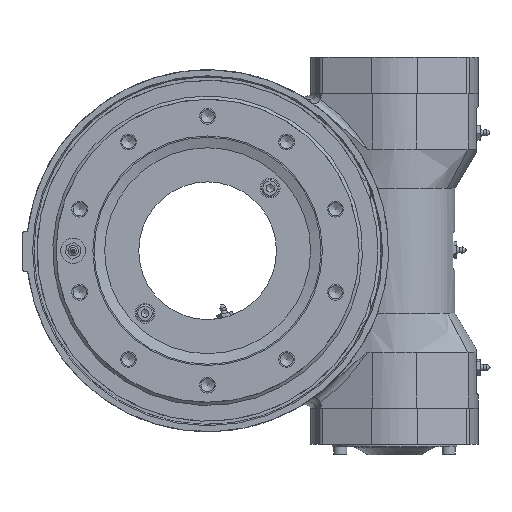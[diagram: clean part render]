
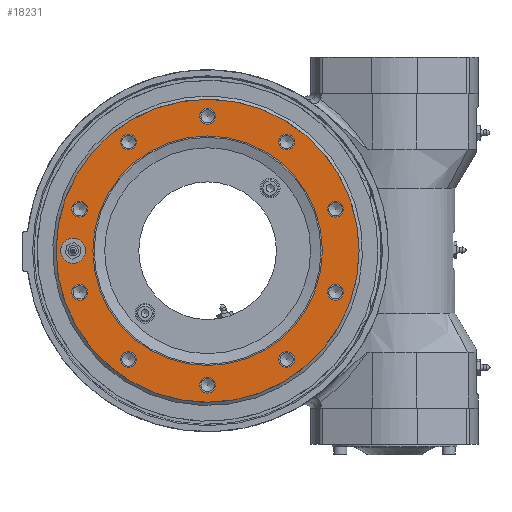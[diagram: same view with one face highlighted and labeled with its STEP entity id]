
A CAD part, left-side view. The second image highlights one B-rep face of the part: STEP entity #18231.
In plain terms, the highlighted planar face has unit normal (-1, 0, 0).
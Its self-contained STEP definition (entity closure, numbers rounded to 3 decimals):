
#50 = CIRCLE ( 'NONE', #22073, 6. ) ;
#58 = PLANE ( 'NONE',  #23993 ) ;
#165 = DIRECTION ( 'NONE',  ( 0., 1., 0. ) ) ;
#266 = EDGE_LOOP ( 'NONE', ( #4659 ) ) ;
#347 = EDGE_LOOP ( 'NONE', ( #29318 ) ) ;
#721 = DIRECTION ( 'NONE',  ( 0., 0., -1. ) ) ;
#766 = CARTESIAN_POINT ( 'NONE',  ( -44., 0., 0. ) ) ;
#1039 = FACE_BOUND ( 'NONE', #13712, .T. ) ;
#1376 = DIRECTION ( 'NONE',  ( -1., 0., 0. ) ) ;
#1445 = FACE_BOUND ( 'NONE', #6499, .T. ) ;
#1452 = CIRCLE ( 'NONE', #10440, 6. ) ;
#1675 = DIRECTION ( 'NONE',  ( 0., 0., -1. ) ) ;
#1855 = EDGE_LOOP ( 'NONE', ( #15531 ) ) ;
#2349 = VERTEX_POINT ( 'NONE', #3419 ) ;
#2399 = AXIS2_PLACEMENT_3D ( 'NONE', #766, #25253, #20233 ) ;
#2497 = CIRCLE ( 'NONE', #19491, 6. ) ;
#2676 = CARTESIAN_POINT ( 'NONE',  ( -44., 97.483, -31.674 ) ) ;
#3124 = EDGE_CURVE ( 'NONE', #25988, #25988, #13745, .T. ) ;
#3419 = CARTESIAN_POINT ( 'NONE',  ( -44., -60.248, 76.924 ) ) ;
#3490 = AXIS2_PLACEMENT_3D ( 'NONE', #27776, #15599, #13295 ) ;
#3721 = DIRECTION ( 'NONE',  ( 0., 1., 0. ) ) ;
#4066 = FACE_BOUND ( 'NONE', #22867, .T. ) ;
#4146 = AXIS2_PLACEMENT_3D ( 'NONE', #12658, #15190, #15397 ) ;
#4659 = ORIENTED_EDGE ( 'NONE', *, *, #4722, .F. ) ;
#4722 = EDGE_CURVE ( 'NONE', #31319, #31319, #1452, .T. ) ;
#4729 = CARTESIAN_POINT ( 'NONE',  ( -44., 60.248, 82.924 ) ) ;
#4817 = FACE_BOUND ( 'NONE', #11257, .T. ) ;
#4867 = AXIS2_PLACEMENT_3D ( 'NONE', #18324, #18115, #3721 ) ;
#5211 = DIRECTION ( 'NONE',  ( -1., 0., 0. ) ) ;
#5316 = EDGE_CURVE ( 'NONE', #23652, #23652, #30639, .T. ) ;
#5674 = VERTEX_POINT ( 'NONE', #24293 ) ;
#5750 = CIRCLE ( 'NONE', #6338, 6. ) ;
#5824 = EDGE_LOOP ( 'NONE', ( #30539 ) ) ;
#5964 = FACE_BOUND ( 'NONE', #347, .T. ) ;
#6338 = AXIS2_PLACEMENT_3D ( 'NONE', #26766, #12156, #14595 ) ;
#6346 = EDGE_CURVE ( 'NONE', #12213, #12213, #50, .T. ) ;
#6499 = EDGE_LOOP ( 'NONE', ( #18837 ) ) ;
#6563 = ORIENTED_EDGE ( 'NONE', *, *, #26302, .T. ) ;
#6608 = CARTESIAN_POINT ( 'NONE',  ( -44., 115.5, 0. ) ) ;
#7466 = FACE_BOUND ( 'NONE', #1855, .T. ) ;
#7753 = DIRECTION ( 'NONE',  ( 0., 0., -1. ) ) ;
#7762 = EDGE_LOOP ( 'NONE', ( #6563 ) ) ;
#7876 = CIRCLE ( 'NONE', #9170, 6. ) ;
#8462 = EDGE_CURVE ( 'NONE', #22896, #22896, #23613, .T. ) ;
#8541 = DIRECTION ( 'NONE',  ( 0., 1., 0. ) ) ;
#8804 = ORIENTED_EDGE ( 'NONE', *, *, #8462, .F. ) ;
#9170 = AXIS2_PLACEMENT_3D ( 'NONE', #13822, #1376, #1675 ) ;
#9857 = CARTESIAN_POINT ( 'NONE',  ( -44., 60.248, -82.924 ) ) ;
#10353 = EDGE_LOOP ( 'NONE', ( #19003 ) ) ;
#10440 = AXIS2_PLACEMENT_3D ( 'NONE', #4729, #14433, #721 ) ;
#10788 = EDGE_CURVE ( 'NONE', #11839, #11839, #14157, .T. ) ;
#10939 = CARTESIAN_POINT ( 'NONE',  ( -44., 6., -102.5 ) ) ;
#11174 = ORIENTED_EDGE ( 'NONE', *, *, #3124, .F. ) ;
#11257 = EDGE_LOOP ( 'NONE', ( #11174 ) ) ;
#11839 = VERTEX_POINT ( 'NONE', #20512 ) ;
#11846 = ORIENTED_EDGE ( 'NONE', *, *, #15445, .F. ) ;
#12156 = DIRECTION ( 'NONE',  ( -1., 0., 0. ) ) ;
#12175 = DIRECTION ( 'NONE',  ( -1., 0., 0. ) ) ;
#12213 = VERTEX_POINT ( 'NONE', #14639 ) ;
#12563 = ORIENTED_EDGE ( 'NONE', *, *, #30821, .F. ) ;
#12658 = CARTESIAN_POINT ( 'NONE',  ( -44., -97.483, 31.674 ) ) ;
#13183 = FACE_BOUND ( 'NONE', #10353, .T. ) ;
#13295 = DIRECTION ( 'NONE',  ( 0., 0., -1. ) ) ;
#13457 = CARTESIAN_POINT ( 'NONE',  ( -44., -97.483, -31.674 ) ) ;
#13712 = EDGE_LOOP ( 'NONE', ( #11846 ) ) ;
#13745 = CIRCLE ( 'NONE', #4867, 9.5 ) ;
#13822 = CARTESIAN_POINT ( 'NONE',  ( -44., -60.248, -82.924 ) ) ;
#13853 = EDGE_LOOP ( 'NONE', ( #8804 ) ) ;
#13949 = CIRCLE ( 'NONE', #4146, 6. ) ;
#14157 = CIRCLE ( 'NONE', #2399, 87.5 ) ;
#14240 = EDGE_CURVE ( 'NONE', #16022, #16022, #7876, .T. ) ;
#14280 = CARTESIAN_POINT ( 'NONE',  ( -44., 0., 96.5 ) ) ;
#14433 = DIRECTION ( 'NONE',  ( -1., 0., 0. ) ) ;
#14595 = DIRECTION ( 'NONE',  ( 0., 1., 0. ) ) ;
#14621 = CARTESIAN_POINT ( 'NONE',  ( -44., 0., 0. ) ) ;
#14639 = CARTESIAN_POINT ( 'NONE',  ( -44., 97.483, -37.674 ) ) ;
#15190 = DIRECTION ( 'NONE',  ( -1., 0., 0. ) ) ;
#15397 = DIRECTION ( 'NONE',  ( 0., 0., -1. ) ) ;
#15445 = EDGE_CURVE ( 'NONE', #23624, #23624, #13949, .T. ) ;
#15531 = ORIENTED_EDGE ( 'NONE', *, *, #20152, .F. ) ;
#15599 = DIRECTION ( 'NONE',  ( -1., 0., 0. ) ) ;
#15790 = CARTESIAN_POINT ( 'NONE',  ( -44., 0., 0. ) ) ;
#16022 = VERTEX_POINT ( 'NONE', #30566 ) ;
#16405 = CIRCLE ( 'NONE', #29713, 115.5 ) ;
#17164 = DIRECTION ( 'NONE',  ( 0., 0., -1. ) ) ;
#18058 = CIRCLE ( 'NONE', #3490, 6. ) ;
#18115 = DIRECTION ( 'NONE',  ( -1., 0., 0. ) ) ;
#18138 = DIRECTION ( 'NONE',  ( -1., 0., 0. ) ) ;
#18231 = ADVANCED_FACE ( 'NONE', ( #19607, #28429, #13183, #27634, #4066, #22291, #1039, #23428, #1445, #7466, #4817, #29939, #5964 ), #58, .T. ) ;
#18324 = CARTESIAN_POINT ( 'NONE',  ( -44., 102.5, 0. ) ) ;
#18716 = EDGE_CURVE ( 'NONE', #2349, #2349, #2497, .T. ) ;
#18837 = ORIENTED_EDGE ( 'NONE', *, *, #14240, .F. ) ;
#19003 = ORIENTED_EDGE ( 'NONE', *, *, #5316, .F. ) ;
#19370 = DIRECTION ( 'NONE',  ( -1., 0., 0. ) ) ;
#19491 = AXIS2_PLACEMENT_3D ( 'NONE', #21844, #19370, #17164 ) ;
#19607 = FACE_BOUND ( 'NONE', #13853, .T. ) ;
#19639 = CARTESIAN_POINT ( 'NONE',  ( -44., 97.483, 25.674 ) ) ;
#20034 = AXIS2_PLACEMENT_3D ( 'NONE', #29466, #12175, #26886 ) ;
#20152 = EDGE_CURVE ( 'NONE', #27410, #27410, #5750, .T. ) ;
#20233 = DIRECTION ( 'NONE',  ( 0., 1., 0. ) ) ;
#20484 = VERTEX_POINT ( 'NONE', #6608 ) ;
#20512 = CARTESIAN_POINT ( 'NONE',  ( -44., 87.5, 0. ) ) ;
#20728 = CIRCLE ( 'NONE', #31449, 6. ) ;
#21844 = CARTESIAN_POINT ( 'NONE',  ( -44., -60.248, 82.924 ) ) ;
#22073 = AXIS2_PLACEMENT_3D ( 'NONE', #2676, #5211, #7753 ) ;
#22291 = FACE_BOUND ( 'NONE', #27405, .T. ) ;
#22529 = ORIENTED_EDGE ( 'NONE', *, *, #18716, .F. ) ;
#22867 = EDGE_LOOP ( 'NONE', ( #23328 ) ) ;
#22896 = VERTEX_POINT ( 'NONE', #25202 ) ;
#23328 = ORIENTED_EDGE ( 'NONE', *, *, #28735, .F. ) ;
#23428 = FACE_BOUND ( 'NONE', #29347, .T. ) ;
#23613 = CIRCLE ( 'NONE', #24273, 6. ) ;
#23624 = VERTEX_POINT ( 'NONE', #30012 ) ;
#23652 = VERTEX_POINT ( 'NONE', #19639 ) ;
#23993 = AXIS2_PLACEMENT_3D ( 'NONE', #14621, #26685, #165 ) ;
#24273 = AXIS2_PLACEMENT_3D ( 'NONE', #9857, #30198, #27503 ) ;
#24293 = CARTESIAN_POINT ( 'NONE',  ( -44., -97.483, -37.674 ) ) ;
#25202 = CARTESIAN_POINT ( 'NONE',  ( -44., 60.248, -88.924 ) ) ;
#25253 = DIRECTION ( 'NONE',  ( -1., 0., 0. ) ) ;
#25988 = VERTEX_POINT ( 'NONE', #29385 ) ;
#26302 = EDGE_CURVE ( 'NONE', #20484, #20484, #16405, .T. ) ;
#26685 = DIRECTION ( 'NONE',  ( -1., 0., 0. ) ) ;
#26766 = CARTESIAN_POINT ( 'NONE',  ( -44., 0., -102.5 ) ) ;
#26886 = DIRECTION ( 'NONE',  ( 0., 0., -1. ) ) ;
#27405 = EDGE_LOOP ( 'NONE', ( #22529 ) ) ;
#27410 = VERTEX_POINT ( 'NONE', #10939 ) ;
#27503 = DIRECTION ( 'NONE',  ( 0., 0., -1. ) ) ;
#27634 = FACE_BOUND ( 'NONE', #266, .T. ) ;
#27776 = CARTESIAN_POINT ( 'NONE',  ( -44., 0., 102.5 ) ) ;
#27942 = DIRECTION ( 'NONE',  ( 0., 0., -1. ) ) ;
#28429 = FACE_BOUND ( 'NONE', #5824, .T. ) ;
#28735 = EDGE_CURVE ( 'NONE', #30452, #30452, #18058, .T. ) ;
#29280 = CARTESIAN_POINT ( 'NONE',  ( -44., 60.248, 76.924 ) ) ;
#29318 = ORIENTED_EDGE ( 'NONE', *, *, #10788, .F. ) ;
#29347 = EDGE_LOOP ( 'NONE', ( #12563 ) ) ;
#29385 = CARTESIAN_POINT ( 'NONE',  ( -44., 112., 0. ) ) ;
#29466 = CARTESIAN_POINT ( 'NONE',  ( -44., 97.483, 31.674 ) ) ;
#29713 = AXIS2_PLACEMENT_3D ( 'NONE', #15790, #18138, #8541 ) ;
#29939 = FACE_OUTER_BOUND ( 'NONE', #7762, .T. ) ;
#30012 = CARTESIAN_POINT ( 'NONE',  ( -44., -97.483, 25.674 ) ) ;
#30198 = DIRECTION ( 'NONE',  ( -1., 0., 0. ) ) ;
#30452 = VERTEX_POINT ( 'NONE', #14280 ) ;
#30523 = DIRECTION ( 'NONE',  ( -1., 0., 0. ) ) ;
#30539 = ORIENTED_EDGE ( 'NONE', *, *, #6346, .F. ) ;
#30566 = CARTESIAN_POINT ( 'NONE',  ( -44., -60.248, -88.924 ) ) ;
#30639 = CIRCLE ( 'NONE', #20034, 6. ) ;
#30821 = EDGE_CURVE ( 'NONE', #5674, #5674, #20728, .T. ) ;
#31319 = VERTEX_POINT ( 'NONE', #29280 ) ;
#31449 = AXIS2_PLACEMENT_3D ( 'NONE', #13457, #30523, #27942 ) ;
